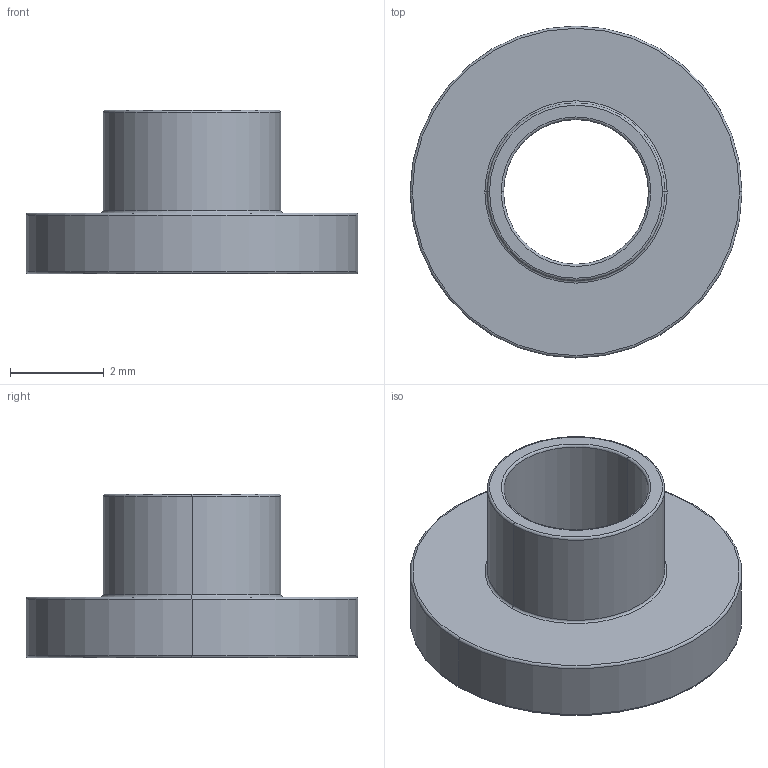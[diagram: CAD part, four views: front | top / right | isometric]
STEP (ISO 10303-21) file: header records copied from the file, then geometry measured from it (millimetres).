
FILE_DESCRIPTION (( 'STEP AP214' ), '1' );
FILE_NAME ('IS570.STEP', '2004-04-06T14:14:19', ( '' ), ( '' ), 'SwSTEP 2.0', 'SolidWorks 2002349', '' );
FILE_SCHEMA (( 'AUTOMOTIVE_DESIGN' ));
Length unit declared in the file: millimetre
Products named in the file (1): IS570
Bounding box: 7.1 x 7.1 x 3.5 mm (x, y, z)
Volume: 50 mm3; surface area: 151.5 mm2
Topology: 1 solids, 1 shells, 21 faces, 42 edges, 24 vertices
Faces by surface type: torus 12, cylinder 6, plane 3
Entity records: 583 total; most frequent: DIRECTION 122, CARTESIAN_POINT 88, ORIENTED_EDGE 84, AXIS2_PLACEMENT_3D 58, EDGE_CURVE 42, CIRCLE 36, VERTEX_POINT 24, EDGE_LOOP 24
